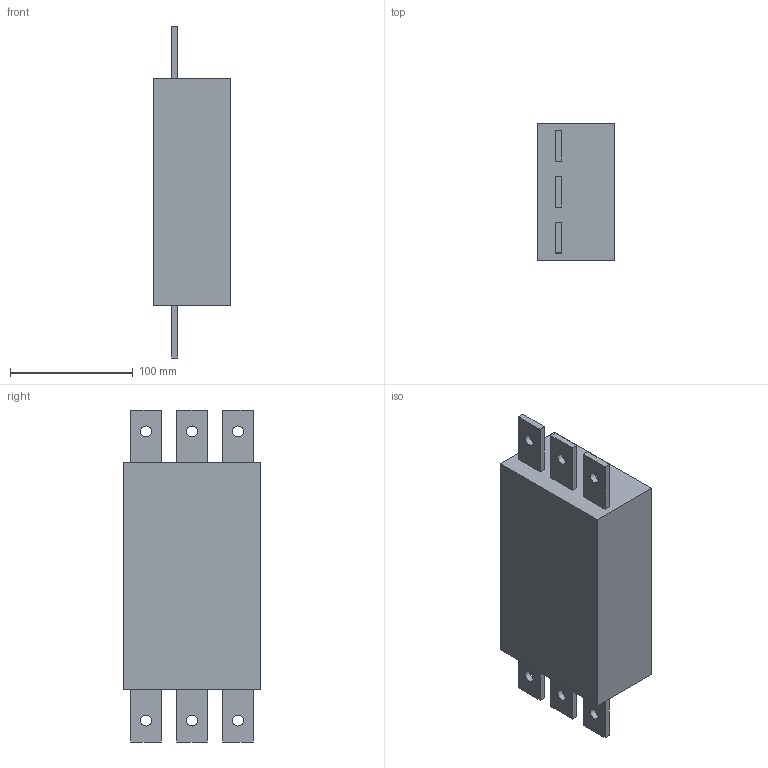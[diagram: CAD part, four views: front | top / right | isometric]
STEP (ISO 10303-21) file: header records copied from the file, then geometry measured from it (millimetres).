
FILE_DESCRIPTION(('STEP AP214'), '1');
FILE_NAME('Ïåðåäíåå (êóáèê)', '', ('UNSPECIFIED'), ('UNSPECIFIED'), 'ASCON STEP Converter 1.3', 'ASCON Math Kernel', '');
FILE_SCHEMA(('AUTOMOTIVE_DESIGN { 1 0 10303 214 3 1 1}'));
Length unit declared in the file: millimetre
Bounding box: 63 x 112 x 271 mm (x, y, z)
Volume: 1342382.5 mm3; surface area: 94596.8 mm2
Topology: 1 solids, 1 shells, 42 faces, 102 edges, 68 vertices
Faces by surface type: plane 36, cylinder 6
Full cylindrical faces by diameter (mm): 9 x6
Entity records: 1587 total; most frequent: CARTESIAN_POINT 207, DIRECTION 194, ORIENTED_EDGE 192, EDGE_CURVE 96, LINE 84, VECTOR 84, VERTEX_POINT 68, EDGE_LOOP 66
